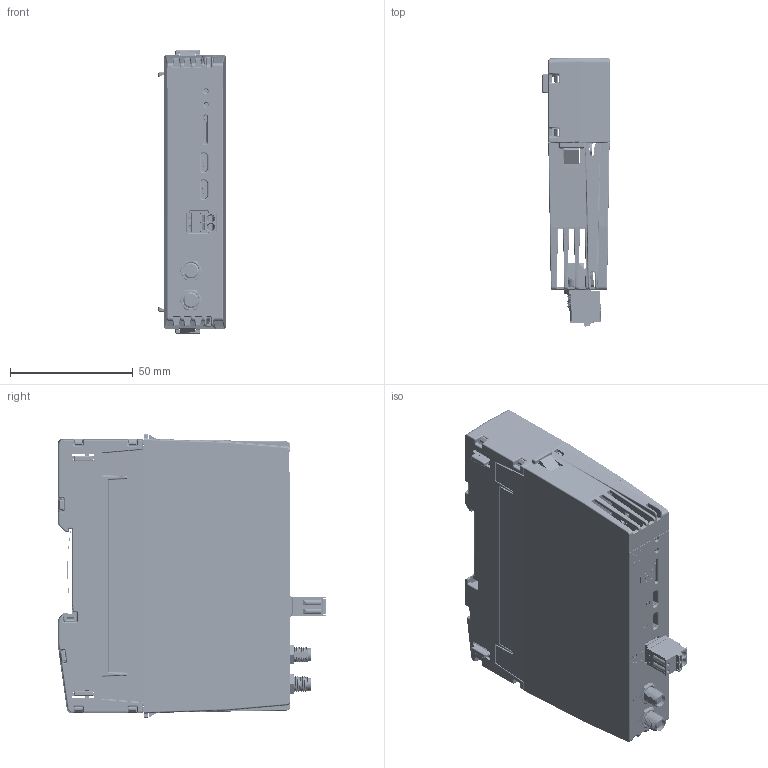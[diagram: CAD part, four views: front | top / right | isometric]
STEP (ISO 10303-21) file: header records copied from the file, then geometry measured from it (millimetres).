
FILE_DESCRIPTION(/* description */ (''),/* implementation_level */ '2;1');
FILE_NAME(/* name */ 'C:\Users\Public\Documents\Autodesk\Inventor 2023\IM51A_Simplified+BB81A.stp',/* time_stamp */ '2024-11-12T20:51:35+01:00',/* author */ ('shoma'),/* organization */ (''),/* preprocessor_version */ 'ST-DEVELOPER v19',/* originating_system */ 'Autodesk Inventor 2023',/* authorisation */ '');
FILE_SCHEMA (('AUTOMOTIVE_DESIGN { 1 0 10303 214 3 1 1 }'));
Products named in the file (1): IM51A_Simplified+BB81A
Bounding box: 27.4 x 109.34 x 115.5 mm (x, y, z)
Volume: 114461.3 mm3; surface area: 78455.5 mm2
Topology: 11 solids, 13 shells, 6566 faces, 18010 edges, 11372 vertices
Faces by surface type: plane 3554, cylinder 2058, bspline 702, sphere 168, cone 58, torus 26
Full cylindrical faces by diameter (mm): 0.296 x1, 0.3 x195, 0.457 x1, 0.7 x36, 0.8 x8, 0.85 x24, 0.9 x8, 1.1 x6, 1.17 x2, 1.2 x2, 1.25 x2, 1.3 x2, 1.4 x4, 1.6 x4, 1.7 x8, 2.35 x2, 2.5 x1, 2.7 x1, 3 x1, 3.1 x2, 3.25 x2, 4 x1, 5 x2, 5.25 x2, 6.35 x4, 6.8 x2
Entity records: 260146 total; most frequent: CARTESIAN_POINT 87679, ORIENTED_EDGE 35721, DIRECTION 32898, EDGE_CURVE 17862, LINE 12020, VECTOR 12020, VERTEX_POINT 11372, AXIS2_PLACEMENT_3D 10439
